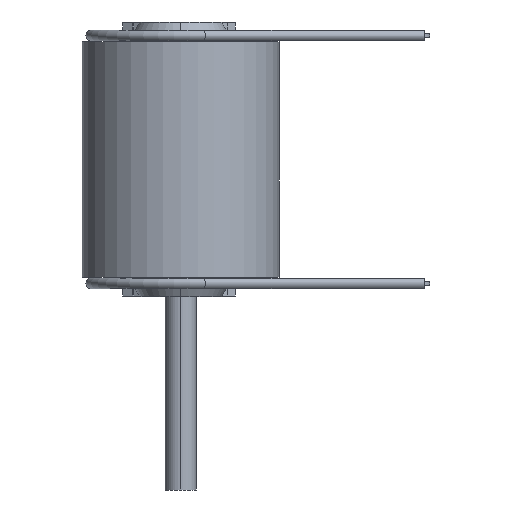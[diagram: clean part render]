
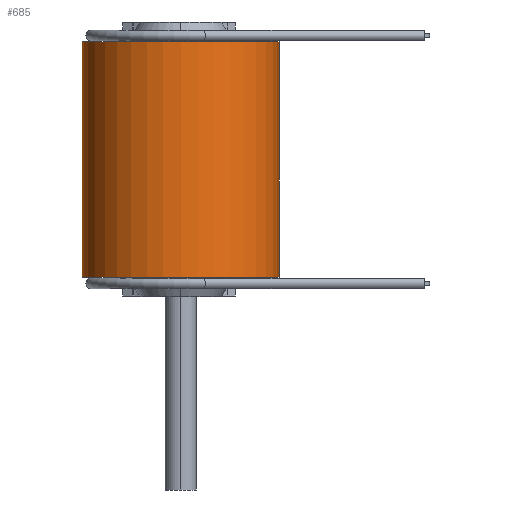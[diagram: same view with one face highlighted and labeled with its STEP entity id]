
A CAD part, left-side view. The second image highlights one B-rep face of the part: STEP entity #685.
In plain terms, the highlighted cylindrical face has radius 63.7 mm (diameter 127.4 mm), a partial arc.
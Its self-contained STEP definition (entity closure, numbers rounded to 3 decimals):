
#216 = DIRECTION ( 'NONE',  ( 0., 0., 1. ) ) ;
#685 = ADVANCED_FACE ( 'NONE', ( #3764 ), #5848, .T. ) ;
#1081 = LINE ( 'NONE', #1719, #1973 ) ;
#1187 = DIRECTION ( 'NONE',  ( 0., 0., 1. ) ) ;
#1242 = ORIENTED_EDGE ( 'NONE', *, *, #1686, .T. ) ;
#1299 = DIRECTION ( 'NONE',  ( 0., 0., 1. ) ) ;
#1647 = DIRECTION ( 'NONE',  ( 0., 0., 1. ) ) ;
#1686 = EDGE_CURVE ( 'NONE', #2693, #7549, #6781, .T. ) ;
#1719 = CARTESIAN_POINT ( 'NONE',  ( 63.7, 0., -76.2 ) ) ;
#1729 = ORIENTED_EDGE ( 'NONE', *, *, #3911, .T. ) ;
#1801 = VERTEX_POINT ( 'NONE', #2901 ) ;
#1973 = VECTOR ( 'NONE', #216, 1000. ) ;
#1994 = EDGE_CURVE ( 'NONE', #2693, #1801, #1081, .T. ) ;
#2045 = CIRCLE ( 'NONE', #7157, 63.7 ) ;
#2693 = VERTEX_POINT ( 'NONE', #3225 ) ;
#2786 = VECTOR ( 'NONE', #1187, 1000. ) ;
#2901 = CARTESIAN_POINT ( 'NONE',  ( 63.7, 0., 76.2 ) ) ;
#3064 = DIRECTION ( 'NONE',  ( 1., 0., 0. ) ) ;
#3225 = CARTESIAN_POINT ( 'NONE',  ( 63.7, 0., -76.2 ) ) ;
#3377 = CARTESIAN_POINT ( 'NONE',  ( 63.571, -127.4, -76.2 ) ) ;
#3528 = AXIS2_PLACEMENT_3D ( 'NONE', #5122, #1299, #8107 ) ;
#3670 = CARTESIAN_POINT ( 'NONE',  ( 63.7, -63.7, -76.2 ) ) ;
#3764 = FACE_OUTER_BOUND ( 'NONE', #8270, .T. ) ;
#3805 = DIRECTION ( 'NONE',  ( 1., 0., 0. ) ) ;
#3911 = EDGE_CURVE ( 'NONE', #7549, #8616, #6824, .T. ) ;
#4113 = CARTESIAN_POINT ( 'NONE',  ( 63.571, -127.4, -76.2 ) ) ;
#5122 = CARTESIAN_POINT ( 'NONE',  ( 63.7, -63.7, -76.2 ) ) ;
#5446 = EDGE_CURVE ( 'NONE', #1801, #8616, #2045, .T. ) ;
#5848 = CYLINDRICAL_SURFACE ( 'NONE', #6473, 63.7 ) ;
#6473 = AXIS2_PLACEMENT_3D ( 'NONE', #3670, #8147, #3805 ) ;
#6499 = CARTESIAN_POINT ( 'NONE',  ( 63.571, -127.4, 76.2 ) ) ;
#6781 = CIRCLE ( 'NONE', #3528, 63.7 ) ;
#6824 = LINE ( 'NONE', #3377, #2786 ) ;
#7157 = AXIS2_PLACEMENT_3D ( 'NONE', #8311, #1647, #3064 ) ;
#7549 = VERTEX_POINT ( 'NONE', #4113 ) ;
#7862 = ORIENTED_EDGE ( 'NONE', *, *, #1994, .F. ) ;
#7988 = ORIENTED_EDGE ( 'NONE', *, *, #5446, .F. ) ;
#8107 = DIRECTION ( 'NONE',  ( 1., 0., 0. ) ) ;
#8147 = DIRECTION ( 'NONE',  ( 0., 0., 1. ) ) ;
#8270 = EDGE_LOOP ( 'NONE', ( #7988, #7862, #1242, #1729 ) ) ;
#8311 = CARTESIAN_POINT ( 'NONE',  ( 63.7, -63.7, 76.2 ) ) ;
#8616 = VERTEX_POINT ( 'NONE', #6499 ) ;
